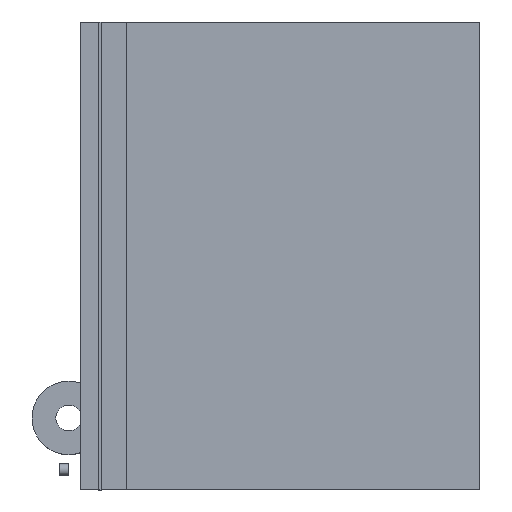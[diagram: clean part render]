
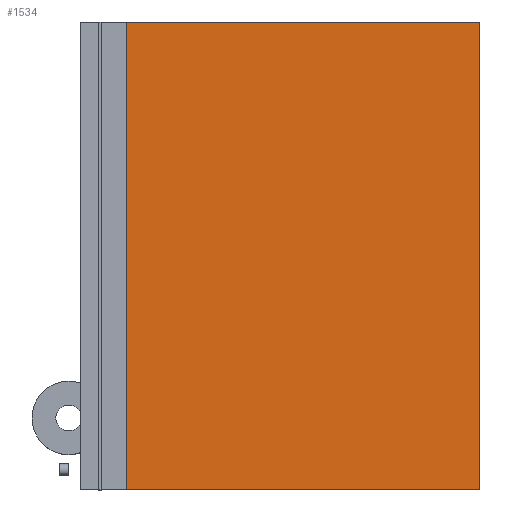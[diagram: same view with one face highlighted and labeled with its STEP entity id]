
A CAD part, top view. The second image highlights one B-rep face of the part: STEP entity #1534.
In plain terms, the highlighted planar face has unit normal (0, 0, 1).
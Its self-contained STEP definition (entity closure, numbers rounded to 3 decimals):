
#66 = PLANE('',#67);
#67 = AXIS2_PLACEMENT_3D('',#68,#69,#70);
#68 = CARTESIAN_POINT('',(0.4,-4.318,0.));
#69 = DIRECTION('',(0.,1.,0.));
#70 = DIRECTION('',(0.,0.,1.));
#309 = PLANE('',#310);
#310 = AXIS2_PLACEMENT_3D('',#311,#312,#313);
#311 = CARTESIAN_POINT('',(0.4,23.751,0.));
#312 = DIRECTION('',(0.,1.,0.));
#313 = DIRECTION('',(0.,0.,1.));
#566 = VERTEX_POINT('',#567);
#567 = CARTESIAN_POINT('',(1.64,-4.318,0.35));
#581 = PLANE('',#582);
#582 = AXIS2_PLACEMENT_3D('',#583,#584,#585);
#583 = CARTESIAN_POINT('',(1.64,-4.318,-0.042));
#584 = DIRECTION('',(1.,0.,0.));
#585 = DIRECTION('',(0.,0.,1.));
#593 = EDGE_CURVE('',#566,#594,#596,.T.);
#594 = VERTEX_POINT('',#595);
#595 = CARTESIAN_POINT('',(24.368,-4.318,0.35));
#596 = SURFACE_CURVE('',#597,(#601,#608),.PCURVE_S1.);
#597 = LINE('',#598,#599);
#598 = CARTESIAN_POINT('',(0.4,-4.318,0.35));
#599 = VECTOR('',#600,1.);
#600 = DIRECTION('',(1.,0.,0.));
#601 = PCURVE('',#66,#602);
#602 = DEFINITIONAL_REPRESENTATION('',(#603),#607);
#603 = LINE('',#604,#605);
#604 = CARTESIAN_POINT('',(0.35,0.));
#605 = VECTOR('',#606,1.);
#606 = DIRECTION('',(0.,1.));
#607 = ( GEOMETRIC_REPRESENTATION_CONTEXT(2) 
PARAMETRIC_REPRESENTATION_CONTEXT() REPRESENTATION_CONTEXT('2D SPACE',''
  ) );
#608 = PCURVE('',#609,#614);
#609 = PLANE('',#610);
#610 = AXIS2_PLACEMENT_3D('',#611,#612,#613);
#611 = CARTESIAN_POINT('',(0.4,-4.318,0.35));
#612 = DIRECTION('',(0.,0.,1.));
#613 = DIRECTION('',(1.,0.,0.));
#614 = DEFINITIONAL_REPRESENTATION('',(#615),#619);
#615 = LINE('',#616,#617);
#616 = CARTESIAN_POINT('',(0.,0.));
#617 = VECTOR('',#618,1.);
#618 = DIRECTION('',(1.,0.));
#619 = ( GEOMETRIC_REPRESENTATION_CONTEXT(2) 
PARAMETRIC_REPRESENTATION_CONTEXT() REPRESENTATION_CONTEXT('2D SPACE',''
  ) );
#637 = PLANE('',#638);
#638 = AXIS2_PLACEMENT_3D('',#639,#640,#641);
#639 = CARTESIAN_POINT('',(24.368,-4.318,0.));
#640 = DIRECTION('',(1.,0.,0.));
#641 = DIRECTION('',(0.,0.,1.));
#952 = VERTEX_POINT('',#953);
#953 = CARTESIAN_POINT('',(1.64,23.751,0.35));
#967 = PLANE('',#968);
#968 = AXIS2_PLACEMENT_3D('',#969,#970,#971);
#969 = CARTESIAN_POINT('',(1.64,-4.318,-0.042));
#970 = DIRECTION('',(1.,0.,0.));
#971 = DIRECTION('',(0.,0.,1.));
#979 = EDGE_CURVE('',#952,#980,#982,.T.);
#980 = VERTEX_POINT('',#981);
#981 = CARTESIAN_POINT('',(24.368,23.751,0.35));
#982 = SURFACE_CURVE('',#983,(#987,#994),.PCURVE_S1.);
#983 = LINE('',#984,#985);
#984 = CARTESIAN_POINT('',(0.4,23.751,0.35));
#985 = VECTOR('',#986,1.);
#986 = DIRECTION('',(1.,0.,0.));
#987 = PCURVE('',#309,#988);
#988 = DEFINITIONAL_REPRESENTATION('',(#989),#993);
#989 = LINE('',#990,#991);
#990 = CARTESIAN_POINT('',(0.35,0.));
#991 = VECTOR('',#992,1.);
#992 = DIRECTION('',(0.,1.));
#993 = ( GEOMETRIC_REPRESENTATION_CONTEXT(2) 
PARAMETRIC_REPRESENTATION_CONTEXT() REPRESENTATION_CONTEXT('2D SPACE',''
  ) );
#994 = PCURVE('',#609,#995);
#995 = DEFINITIONAL_REPRESENTATION('',(#996),#1000);
#996 = LINE('',#997,#998);
#997 = CARTESIAN_POINT('',(0.,28.07));
#998 = VECTOR('',#999,1.);
#999 = DIRECTION('',(1.,0.));
#1000 = ( GEOMETRIC_REPRESENTATION_CONTEXT(2) 
PARAMETRIC_REPRESENTATION_CONTEXT() REPRESENTATION_CONTEXT('2D SPACE',''
  ) );
#1457 = CYLINDRICAL_SURFACE('',#1458,2.2);
#1458 = AXIS2_PLACEMENT_3D('',#1459,#1460,#1461);
#1459 = CARTESIAN_POINT('',(-0.3,0.,0.));
#1460 = DIRECTION('',(-0.,-0.,-1.));
#1461 = DIRECTION('',(1.,0.,0.));
#1494 = EDGE_CURVE('',#566,#1495,#1497,.T.);
#1495 = VERTEX_POINT('',#1496);
#1496 = CARTESIAN_POINT('',(1.64,-1.037,0.35));
#1497 = SURFACE_CURVE('',#1498,(#1502,#1508),.PCURVE_S1.);
#1498 = LINE('',#1499,#1500);
#1499 = CARTESIAN_POINT('',(1.64,-4.318,0.35));
#1500 = VECTOR('',#1501,1.);
#1501 = DIRECTION('',(0.,1.,0.));
#1502 = PCURVE('',#581,#1503);
#1503 = DEFINITIONAL_REPRESENTATION('',(#1504),#1507);
#1504 = B_SPLINE_CURVE_WITH_KNOTS('',1,(#1505,#1506),.UNSPECIFIED.,.F.,
  .F.,(2,2),(0.,28.07),.PIECEWISE_BEZIER_KNOTS.);
#1505 = CARTESIAN_POINT('',(0.392,0.));
#1506 = CARTESIAN_POINT('',(0.392,-28.07));
#1507 = ( GEOMETRIC_REPRESENTATION_CONTEXT(2) 
PARAMETRIC_REPRESENTATION_CONTEXT() REPRESENTATION_CONTEXT('2D SPACE',''
  ) );
#1508 = PCURVE('',#609,#1509);
#1509 = DEFINITIONAL_REPRESENTATION('',(#1510),#1513);
#1510 = B_SPLINE_CURVE_WITH_KNOTS('',1,(#1511,#1512),.UNSPECIFIED.,.F.,
  .F.,(2,2),(0.,28.07),.PIECEWISE_BEZIER_KNOTS.);
#1511 = CARTESIAN_POINT('',(1.24,0.));
#1512 = CARTESIAN_POINT('',(1.24,28.07));
#1513 = ( GEOMETRIC_REPRESENTATION_CONTEXT(2) 
PARAMETRIC_REPRESENTATION_CONTEXT() REPRESENTATION_CONTEXT('2D SPACE',''
  ) );
#1534 = ADVANCED_FACE('',(#1535),#609,.T.);
#1535 = FACE_BOUND('',#1536,.T.);
#1536 = EDGE_LOOP('',(#1537,#1538,#1559,#1585,#1586,#1587));
#1537 = ORIENTED_EDGE('',*,*,#979,.F.);
#1538 = ORIENTED_EDGE('',*,*,#1539,.F.);
#1539 = EDGE_CURVE('',#1540,#952,#1542,.T.);
#1540 = VERTEX_POINT('',#1541);
#1541 = CARTESIAN_POINT('',(1.64,1.037,0.35));
#1542 = SURFACE_CURVE('',#1543,(#1547,#1553),.PCURVE_S1.);
#1543 = LINE('',#1544,#1545);
#1544 = CARTESIAN_POINT('',(1.64,-4.318,0.35));
#1545 = VECTOR('',#1546,1.);
#1546 = DIRECTION('',(0.,1.,0.));
#1547 = PCURVE('',#609,#1548);
#1548 = DEFINITIONAL_REPRESENTATION('',(#1549),#1552);
#1549 = B_SPLINE_CURVE_WITH_KNOTS('',1,(#1550,#1551),.UNSPECIFIED.,.F.,
  .F.,(2,2),(0.,28.07),.PIECEWISE_BEZIER_KNOTS.);
#1550 = CARTESIAN_POINT('',(1.24,0.));
#1551 = CARTESIAN_POINT('',(1.24,28.07));
#1552 = ( GEOMETRIC_REPRESENTATION_CONTEXT(2) 
PARAMETRIC_REPRESENTATION_CONTEXT() REPRESENTATION_CONTEXT('2D SPACE',''
  ) );
#1553 = PCURVE('',#967,#1554);
#1554 = DEFINITIONAL_REPRESENTATION('',(#1555),#1558);
#1555 = B_SPLINE_CURVE_WITH_KNOTS('',1,(#1556,#1557),.UNSPECIFIED.,.F.,
  .F.,(2,2),(0.,28.07),.PIECEWISE_BEZIER_KNOTS.);
#1556 = CARTESIAN_POINT('',(0.392,0.));
#1557 = CARTESIAN_POINT('',(0.392,-28.07));
#1558 = ( GEOMETRIC_REPRESENTATION_CONTEXT(2) 
PARAMETRIC_REPRESENTATION_CONTEXT() REPRESENTATION_CONTEXT('2D SPACE',''
  ) );
#1559 = ORIENTED_EDGE('',*,*,#1560,.T.);
#1560 = EDGE_CURVE('',#1540,#1495,#1561,.T.);
#1561 = SURFACE_CURVE('',#1562,(#1567,#1578),.PCURVE_S1.);
#1562 = CIRCLE('',#1563,2.2);
#1563 = AXIS2_PLACEMENT_3D('',#1564,#1565,#1566);
#1564 = CARTESIAN_POINT('',(-0.3,0.,0.35));
#1565 = DIRECTION('',(0.,0.,-1.));
#1566 = DIRECTION('',(0.882,0.472,0.));
#1567 = PCURVE('',#609,#1568);
#1568 = DEFINITIONAL_REPRESENTATION('',(#1569),#1577);
#1569 = ( BOUNDED_CURVE() B_SPLINE_CURVE(2,(#1570,#1571,#1572,#1573,
#1574,#1575,#1576),.UNSPECIFIED.,.T.,.F.) B_SPLINE_CURVE_WITH_KNOTS((1,2
    ,2,2,2,1),(-2.094,0.,2.094,4.189,
6.283,8.378),.UNSPECIFIED.) CURVE() 
GEOMETRIC_REPRESENTATION_ITEM() RATIONAL_B_SPLINE_CURVE((1.,0.5,1.,0.5,
1.,0.5,1.)) REPRESENTATION_ITEM('') );
#1570 = CARTESIAN_POINT('',(1.24,5.356));
#1571 = CARTESIAN_POINT('',(3.037,1.996));
#1572 = CARTESIAN_POINT('',(-0.772,2.12));
#1573 = CARTESIAN_POINT('',(-4.58,2.243));
#1574 = CARTESIAN_POINT('',(-2.568,5.48));
#1575 = CARTESIAN_POINT('',(-0.557,8.716));
#1576 = CARTESIAN_POINT('',(1.24,5.356));
#1577 = ( GEOMETRIC_REPRESENTATION_CONTEXT(2) 
PARAMETRIC_REPRESENTATION_CONTEXT() REPRESENTATION_CONTEXT('2D SPACE',''
  ) );
#1578 = PCURVE('',#1457,#1579);
#1579 = DEFINITIONAL_REPRESENTATION('',(#1580),#1584);
#1580 = LINE('',#1581,#1582);
#1581 = CARTESIAN_POINT('',(-6.774,-0.35));
#1582 = VECTOR('',#1583,1.);
#1583 = DIRECTION('',(1.,-0.));
#1584 = ( GEOMETRIC_REPRESENTATION_CONTEXT(2) 
PARAMETRIC_REPRESENTATION_CONTEXT() REPRESENTATION_CONTEXT('2D SPACE',''
  ) );
#1585 = ORIENTED_EDGE('',*,*,#1494,.F.);
#1586 = ORIENTED_EDGE('',*,*,#593,.T.);
#1587 = ORIENTED_EDGE('',*,*,#1588,.T.);
#1588 = EDGE_CURVE('',#594,#980,#1589,.T.);
#1589 = SURFACE_CURVE('',#1590,(#1594,#1601),.PCURVE_S1.);
#1590 = LINE('',#1591,#1592);
#1591 = CARTESIAN_POINT('',(24.368,-4.318,0.35));
#1592 = VECTOR('',#1593,1.);
#1593 = DIRECTION('',(0.,1.,0.));
#1594 = PCURVE('',#609,#1595);
#1595 = DEFINITIONAL_REPRESENTATION('',(#1596),#1600);
#1596 = LINE('',#1597,#1598);
#1597 = CARTESIAN_POINT('',(23.968,0.));
#1598 = VECTOR('',#1599,1.);
#1599 = DIRECTION('',(0.,1.));
#1600 = ( GEOMETRIC_REPRESENTATION_CONTEXT(2) 
PARAMETRIC_REPRESENTATION_CONTEXT() REPRESENTATION_CONTEXT('2D SPACE',''
  ) );
#1601 = PCURVE('',#637,#1602);
#1602 = DEFINITIONAL_REPRESENTATION('',(#1603),#1607);
#1603 = LINE('',#1604,#1605);
#1604 = CARTESIAN_POINT('',(0.35,0.));
#1605 = VECTOR('',#1606,1.);
#1606 = DIRECTION('',(0.,-1.));
#1607 = ( GEOMETRIC_REPRESENTATION_CONTEXT(2) 
PARAMETRIC_REPRESENTATION_CONTEXT() REPRESENTATION_CONTEXT('2D SPACE',''
  ) );
